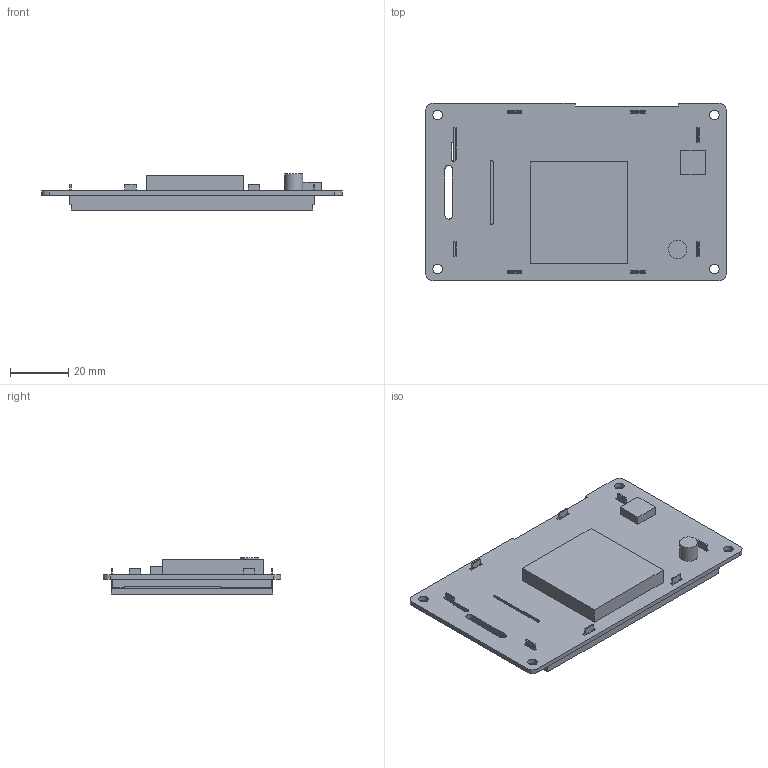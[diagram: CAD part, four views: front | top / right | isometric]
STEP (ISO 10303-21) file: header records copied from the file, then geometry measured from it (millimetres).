
FILE_DESCRIPTION((''),'2;1');
FILE_NAME('3D-DMG48320C035-03WTC','2025-10-21T',('Administrator'),(''),'PRO/ENGINEER BY PARAMETRIC TECHNOLOGY CORPORATION, 2014320','PRO/ENGINEER BY PARAMETRIC TECHNOLOGY CORPORATION, 2014320','');
FILE_SCHEMA(('AUTOMOTIVE_DESIGN_CC2 { 1 2 10303 214 -1 1 5 2 }'));
Products named in the file (1): 3D-DMG48320C035-03WTC
Bounding box: 103.25 x 61.09 x 12.4 mm (x, y, z)
Volume: 34785.3 mm3; surface area: 33591 mm2
Topology: 1 solids, 2 shells, 178 faces, 6981 edges, 11071 vertices
Faces by surface type: plane 158, cylinder 20
Entity records: 59760 total; most frequent: DIRECTION 9561, CARTESIAN_POINT 7514, CURVE_STYLE 6438, PRESENTATION_STYLE_ASSIGNMENT 6438, STYLED_ITEM 6438, TRIMMED_CURVE 6437, VECTOR 4757, LINE 4757
